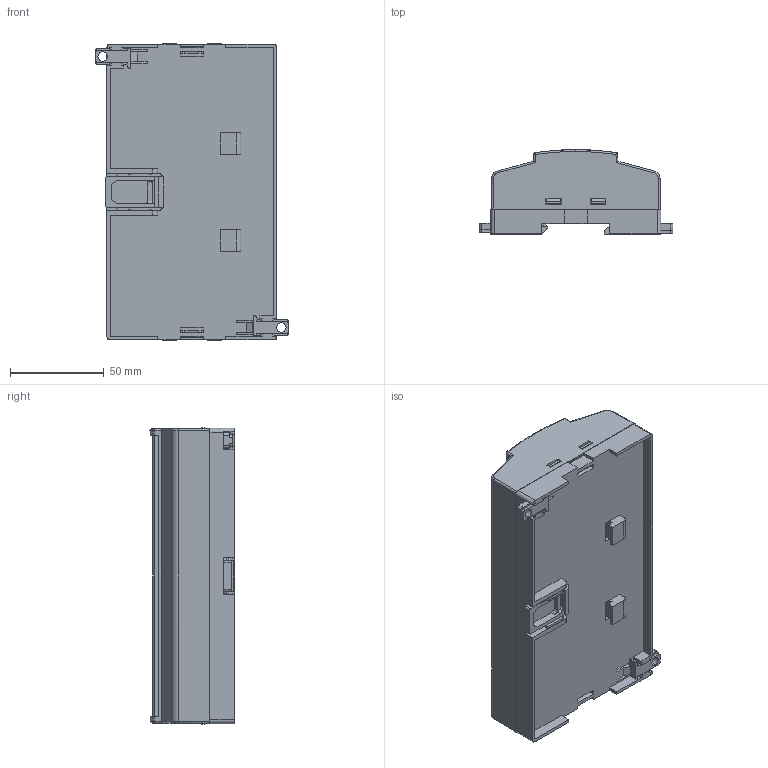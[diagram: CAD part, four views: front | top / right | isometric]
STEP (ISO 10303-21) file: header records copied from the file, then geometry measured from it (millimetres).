
FILE_DESCRIPTION (( 'STEP AP203' ), '1' );
FILE_NAME ('PT509.STEP', '2020-12-03T07:53:48', ( '' ), ( '' ), 'SwSTEP 2.0', 'SolidWorks 2020', '' );
FILE_SCHEMA (( 'CONFIG_CONTROL_DESIGN' ));
Length unit declared in the file: millimetre
Products named in the file (5): PT509
Assembly tree (5 placements, depth 2):
  PT509
    PT509
    PT509
    PT509
    PT509  x2
Bounding box: 103.22 x 44.92 x 157.8 mm (x, y, z)
Volume: 97237.8 mm3; surface area: 101004.6 mm2
Topology: 8 solids, 8 shells, 569 faces, 1590 edges, 1039 vertices
Faces by surface type: plane 432, cylinder 108, cone 10, torus 8, bspline 7, sphere 4
Entity records: 18094 total; most frequent: CARTESIAN_POINT 3367, ORIENTED_EDGE 3060, DIRECTION 2804, EDGE_CURVE 1530, VECTOR 1268, LINE 1268, VERTEX_POINT 999, AXIS2_PLACEMENT_3D 768
